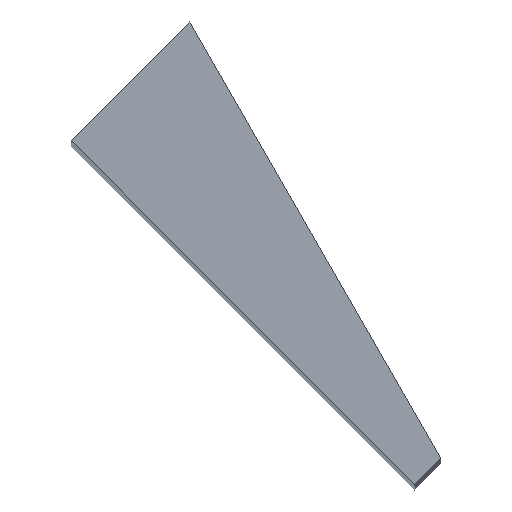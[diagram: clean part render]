
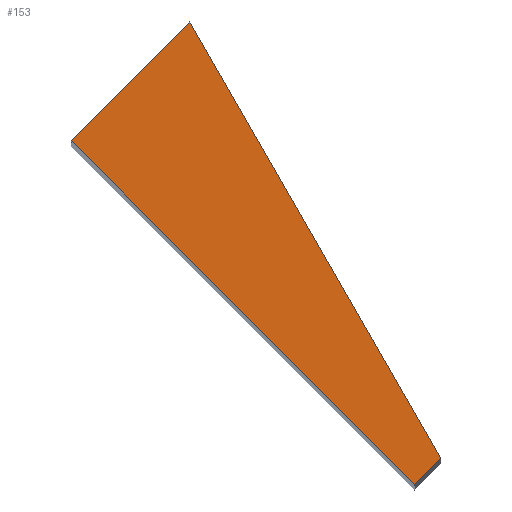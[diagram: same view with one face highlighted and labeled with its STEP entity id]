
A CAD part, top view. The second image highlights one B-rep face of the part: STEP entity #153.
In plain terms, the highlighted planar face has unit normal (0, 0, 1).
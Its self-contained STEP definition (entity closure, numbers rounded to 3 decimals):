
#24 = VERTEX_POINT('',#25);
#25 = CARTESIAN_POINT('',(-19.432,20.846,100.));
#31 = EDGE_CURVE('',#24,#32,#34,.T.);
#32 = VERTEX_POINT('',#33);
#33 = CARTESIAN_POINT('',(-20.139,20.139,100.));
#34 = LINE('',#35,#36);
#35 = CARTESIAN_POINT('',(-19.432,20.846,100.));
#36 = VECTOR('',#37,1.);
#37 = DIRECTION('',(-0.707,-0.707,0.));
#62 = EDGE_CURVE('',#32,#63,#65,.T.);
#63 = VERTEX_POINT('',#64);
#64 = CARTESIAN_POINT('',(-29.332,29.332,100.));
#65 = LINE('',#66,#67);
#66 = CARTESIAN_POINT('',(-20.139,20.139,100.));
#67 = VECTOR('',#68,1.);
#68 = DIRECTION('',(-0.707,0.707,0.));
#93 = EDGE_CURVE('',#63,#94,#96,.T.);
#94 = VERTEX_POINT('',#95);
#95 = CARTESIAN_POINT('',(-26.15,32.514,100.));
#96 = LINE('',#97,#98);
#97 = CARTESIAN_POINT('',(-29.332,29.332,100.));
#98 = VECTOR('',#99,1.);
#99 = DIRECTION('',(0.707,0.707,0.));
#124 = EDGE_CURVE('',#94,#24,#125,.T.);
#125 = LINE('',#126,#127);
#126 = CARTESIAN_POINT('',(-26.15,32.514,100.));
#127 = VECTOR('',#128,1.);
#128 = DIRECTION('',(0.499,-0.867,0.));
#153 = ADVANCED_FACE('',(#154),#160,.F.);
#154 = FACE_BOUND('',#155,.F.);
#155 = EDGE_LOOP('',(#156,#157,#158,#159));
#156 = ORIENTED_EDGE('',*,*,#31,.T.);
#157 = ORIENTED_EDGE('',*,*,#62,.T.);
#158 = ORIENTED_EDGE('',*,*,#93,.T.);
#159 = ORIENTED_EDGE('',*,*,#124,.T.);
#160 = PLANE('',#161);
#161 = AXIS2_PLACEMENT_3D('',#162,#163,#164);
#162 = CARTESIAN_POINT('',(-24.185,26.293,100.));
#163 = DIRECTION('',(-0.,-0.,-1.));
#164 = DIRECTION('',(-1.,0.,0.));
